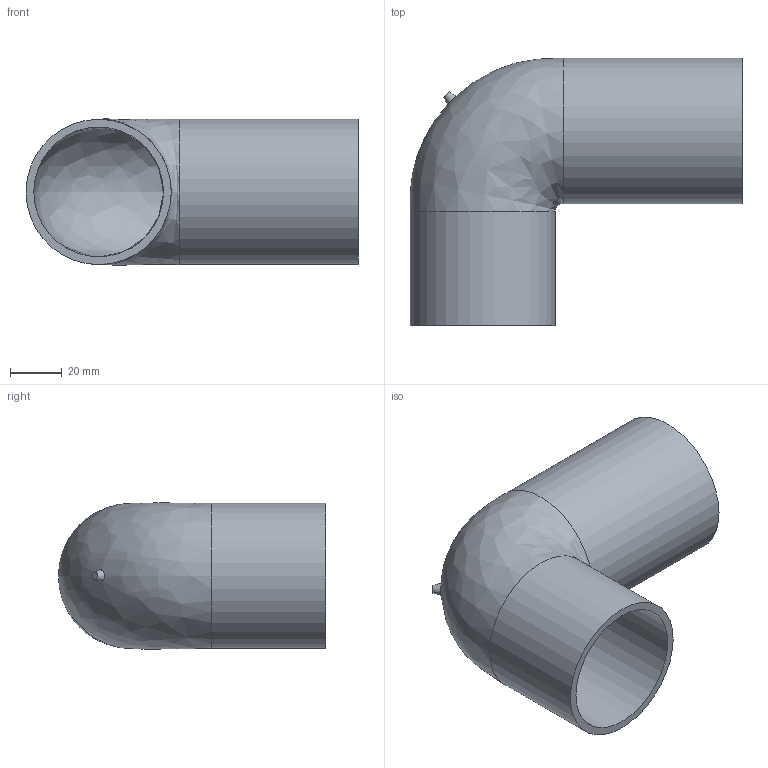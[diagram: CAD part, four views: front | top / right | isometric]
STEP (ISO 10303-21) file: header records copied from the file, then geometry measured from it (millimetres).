
FILE_DESCRIPTION(/* description */ (''),/* implementation_level */ '2;1');
FILE_NAME(/* name */ 'Z:\Geberit\Export\NewStep\363080.stp',/* time_stamp */ '2014-04-01T21:08:42+02:00',/* author */ ('nelson'),/* organization */ (''),/* preprocessor_version */ 'ST-DEVELOPER v15.2',/* originating_system */ 'Autodesk Inventor 2014',/* authorisation */ '');
FILE_SCHEMA (('AUTOMOTIVE_DESIGN { 1 0 10303 214 3 1 1 }'));
Length unit declared in the file: millimetre
Products named in the file (1): 363080
Bounding box: 128 x 103 x 56.33 mm (x, y, z)
Volume: 81593.7 mm3; surface area: 55398.5 mm2
Topology: 1 solids, 1 shells, 10 faces, 20 edges, 12 vertices
Faces by surface type: cylinder 4, plane 3, bspline 2, cone 1
Full cylindrical faces by diameter (mm): 50 x2, 56 x2
Entity records: 1006 total; most frequent: CARTESIAN_POINT 806, DIRECTION 36, ORIENTED_EDGE 28, AXIS2_PLACEMENT_3D 18, EDGE_LOOP 17, EDGE_CURVE 14, VERTEX_POINT 11, ADVANCED_FACE 10
